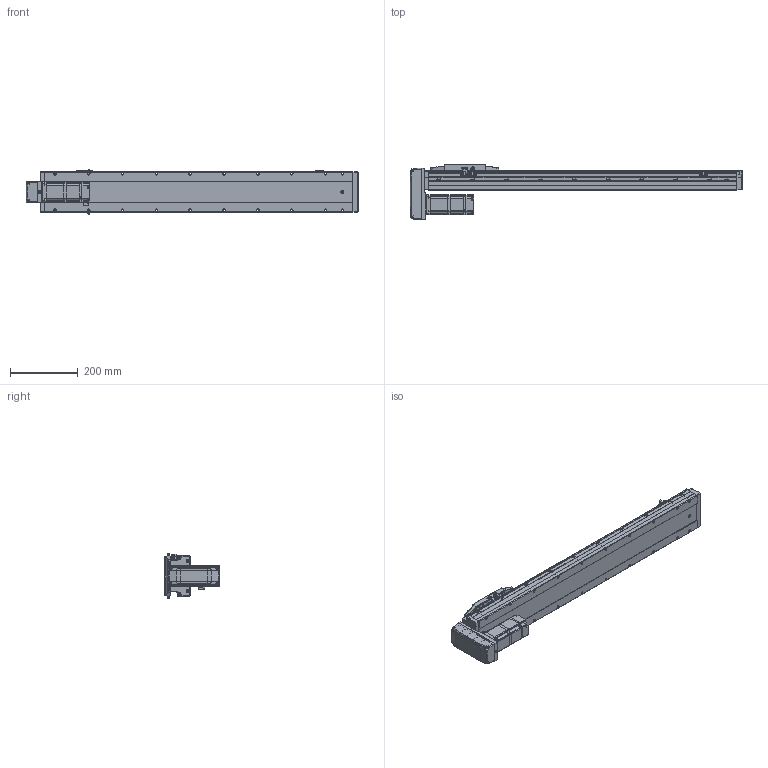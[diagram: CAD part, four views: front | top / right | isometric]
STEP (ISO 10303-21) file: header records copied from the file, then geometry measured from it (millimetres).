
FILE_DESCRIPTION (( 'STEP AP214' ), '1' );
FILE_NAME ('CTH12-L10-S700-BM-C40（简）.STEP', '2023-02-04T06:47:20', ( '' ), ( '' ), 'SwSTEP 2.0', 'SolidWorks 2018', '' );
FILE_SCHEMA (( 'AUTOMOTIVE_DESIGN' ));
Length unit declared in the file: millimetre
Products named in the file (25): BM-C40; 蚐郲; CTH12底座-L911简（700行程）; 内六角圆柱头螺钉M3-2; hex nuts, style 1-grades ab gb_GB_FASTENER_NUT_SNAB1 M3-N; 湮賑怢  裔赽-1(CTH12)賑怢; CTH12覜茼え; AC60_Valor predeterminado; PM-Y45; CTH12; CTH嫖萇羲壽假蚾啣; CTH400W假蚾啣; 内六角圆柱头螺钉M5装饰螺钉; 内六角圆柱头螺钉M3-1; CTH12賑怢郪磁; CTH12賑怢ㄗ潠ㄘ; 嫖萇羲壽郪磁2; CTH12-BM-02; CTH12-BL_body_4; 内六角圆柱头螺钉M3; CTH8耜蚾蟀諉啣ㄗ潠ㄘ; CTH400W垫板（3个厚）; 嫖萇羲壽郪磁1; CTH12_body_3; CTH12-L10-S700-BM-C40（简）
Assembly tree (45 placements, depth 4):
  CTH12-L10-S700-BM-C40（简）
    CTH12底座-L911简（700行程）
    蚐郲  x2
    CTH12_body_3
    CTH12-BL_body_4
    CTH12賑怢郪磁
      CTH12
        湮賑怢  裔赽-1(CTH12)賑怢
        CTH12賑怢ㄗ潠ㄘ
    CTH12覜茼え
    嫖萇羲壽郪磁1  x2
      CTH嫖萇羲壽假蚾啣
      PM-Y45
      内六角圆柱头螺钉M3-2
      内六角圆柱头螺钉M3-1
      hex nuts, style 1-grades ab gb_GB_FASTENER_NUT_SNAB1 M3-N
    嫖萇羲壽郪磁2
      CTH嫖萇羲壽假蚾啣
      PM-Y45
      内六角圆柱头螺钉M3-1  x2
      内六角圆柱头螺钉M3-2  x2
      hex nuts, style 1-grades ab gb_GB_FASTENER_NUT_SNAB1 M3-N  x2
    BM-C40
      CTH12-BM-02
      CTH8耜蚾蟀諉啣ㄗ潠ㄘ
    CTH400W垫板（3个厚）
    AC60_Valor predeterminado
    内六角圆柱头螺钉M3  x6
    内六角圆柱头螺钉M5装饰螺钉  x4
    CTH400W假蚾啣
Bounding box: 981.5 x 162.5 x 131.52 mm (x, y, z)
Volume: 6698788.3 mm3; surface area: 648431.3 mm2
Topology: 47 solids, 48 shells, 2835 faces, 7185 edges, 4569 vertices
Faces by surface type: plane 1518, cylinder 838, cone 315, bspline 112, torus 52
Entity records: 78345 total; most frequent: CARTESIAN_POINT 18629, ORIENTED_EDGE 11550, DIRECTION 11476, EDGE_CURVE 5775, AXIS2_PLACEMENT_3D 3907, VERTEX_POINT 3673, VECTOR 3662, LINE 3662
